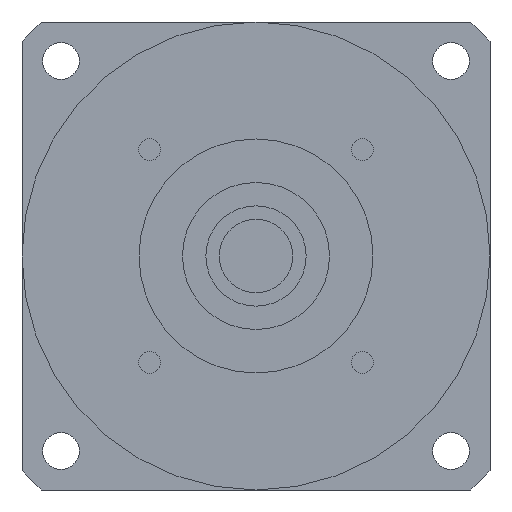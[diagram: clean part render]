
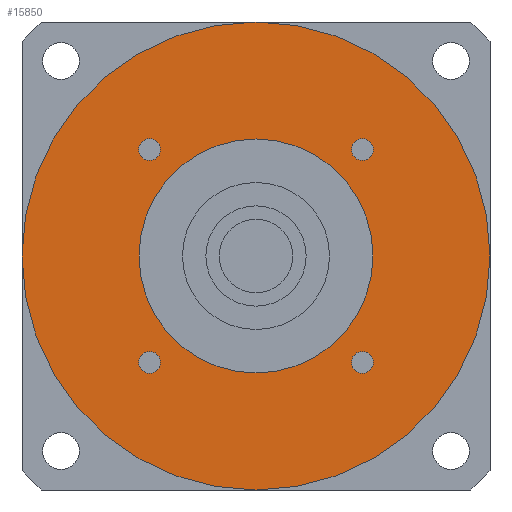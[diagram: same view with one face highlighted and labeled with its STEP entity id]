
A CAD part, left-side view. The second image highlights one B-rep face of the part: STEP entity #15850.
In plain terms, the highlighted planar face has unit normal (-1, 0, 0) as drawn and (0, 0, -1) by its records, which use the part's own axes.
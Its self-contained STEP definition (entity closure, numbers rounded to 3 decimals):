
#14690=CARTESIAN_POINT('',(-70.,0.,-54.7));
#14700=VERTEX_POINT('',#14690);
#14730=CARTESIAN_POINT('',(0.,0.,
-54.7));
#14740=DIRECTION('',(0.,0.,-1.));
#14750=DIRECTION('',(0.,-1.,0.));
#14760=AXIS2_PLACEMENT_3D('',#14730,#14740,#14750);
#14770=CIRCLE('',#14760,70.);
#14780=CARTESIAN_POINT('',(70.,0.,-54.7));
#14790=VERTEX_POINT('',#14780);
#14800=EDGE_CURVE('',#14700,#14790,#14770,.T.);
#14920=CARTESIAN_POINT('',(0.,0.,
-54.7));
#14930=DIRECTION('',(0.,0.,-1.));
#14940=DIRECTION('',(1.,0.,0.));
#14950=AXIS2_PLACEMENT_3D('',#14920,#14930,#14940);
#14960=PLANE('',#14950);
#14970=CARTESIAN_POINT('',(-31.82,31.82,-54.7));
#14980=DIRECTION('',(0.,0.,-1.));
#14990=DIRECTION('',(-1.,0.,0.));
#15000=AXIS2_PLACEMENT_3D('',#14970,#14980,#14990);
#15010=CIRCLE('',#15000,3.25);
#15020=CARTESIAN_POINT('',(-35.07,31.82,-54.7));
#15030=VERTEX_POINT('',#15020);
#15040=CARTESIAN_POINT('',(-28.57,31.82,-54.7));
#15050=VERTEX_POINT('',#15040);
#15060=EDGE_CURVE('',#15030,#15050,#15010,.T.);
#15070=ORIENTED_EDGE('',*,*,#15060,.F.);
#15080=EDGE_CURVE('',#15050,#15030,#15010,.T.);
#15090=ORIENTED_EDGE('',*,*,#15080,.F.);
#15100=EDGE_LOOP('',(#15090,#15070));
#15110=FACE_BOUND('',#15100,.T.);
#15120=CARTESIAN_POINT('',(-31.82,-31.82,-54.7));
#15130=DIRECTION('',(0.,0.,-1.));
#15140=DIRECTION('',(0.,-1.,0.));
#15150=AXIS2_PLACEMENT_3D('',#15120,#15130,#15140);
#15160=CIRCLE('',#15150,3.25);
#15170=CARTESIAN_POINT('',(-31.82,-35.07,-54.7));
#15180=VERTEX_POINT('',#15170);
#15190=CARTESIAN_POINT('',(-31.82,-28.57,-54.7));
#15200=VERTEX_POINT('',#15190);
#15210=EDGE_CURVE('',#15180,#15200,#15160,.T.);
#15220=ORIENTED_EDGE('',*,*,#15210,.F.);
#15230=EDGE_CURVE('',#15200,#15180,#15160,.T.);
#15240=ORIENTED_EDGE('',*,*,#15230,.F.);
#15250=EDGE_LOOP('',(#15240,#15220));
#15260=FACE_BOUND('',#15250,.T.);
#15270=CARTESIAN_POINT('',(0.,0.,
-54.7));
#15280=DIRECTION('',(0.,0.,1.));
#15290=DIRECTION('',(0.,1.,0.));
#15300=AXIS2_PLACEMENT_3D('',#15270,#15280,#15290);
#15310=CIRCLE('',#15300,35.);
#15320=CARTESIAN_POINT('',(-35.,0.,-54.7));
#15330=VERTEX_POINT('',#15320);
#15340=CARTESIAN_POINT('',(35.,0.,-54.7));
#15350=VERTEX_POINT('',#15340);
#15360=EDGE_CURVE('',#15330,#15350,#15310,.T.);
#15370=ORIENTED_EDGE('',*,*,#15360,.T.);
#15380=CARTESIAN_POINT('',(0.,35.,-54.7));
#15390=VERTEX_POINT('',#15380);
#15400=EDGE_CURVE('',#15390,#15330,#15310,.T.);
#15410=ORIENTED_EDGE('',*,*,#15400,.T.);
#15420=EDGE_CURVE('',#15350,#15390,#15310,.T.);
#15430=ORIENTED_EDGE('',*,*,#15420,.T.);
#15440=EDGE_LOOP('',(#15430,#15410,#15370));
#15450=FACE_BOUND('',#15440,.T.);
#15460=CARTESIAN_POINT('',(31.82,-31.82,-54.7));
#15470=DIRECTION('',(0.,0.,-1.));
#15480=DIRECTION('',(1.,0.,0.));
#15490=AXIS2_PLACEMENT_3D('',#15460,#15470,#15480);
#15500=CIRCLE('',#15490,3.25);
#15510=CARTESIAN_POINT('',(35.07,-31.82,-54.7));
#15520=VERTEX_POINT('',#15510);
#15530=CARTESIAN_POINT('',(28.57,-31.82,-54.7));
#15540=VERTEX_POINT('',#15530);
#15550=EDGE_CURVE('',#15520,#15540,#15500,.T.);
#15560=ORIENTED_EDGE('',*,*,#15550,.F.);
#15570=EDGE_CURVE('',#15540,#15520,#15500,.T.);
#15580=ORIENTED_EDGE('',*,*,#15570,.F.);
#15590=EDGE_LOOP('',(#15580,#15560));
#15600=FACE_BOUND('',#15590,.T.);
#15610=CARTESIAN_POINT('',(31.82,31.82,-54.7));
#15620=DIRECTION('',(0.,0.,-1.));
#15630=DIRECTION('',(0.,1.,0.));
#15640=AXIS2_PLACEMENT_3D('',#15610,#15620,#15630);
#15650=CIRCLE('',#15640,3.25);
#15660=CARTESIAN_POINT('',(31.82,35.07,-54.7));
#15670=VERTEX_POINT('',#15660);
#15680=CARTESIAN_POINT('',(31.82,28.57,-54.7));
#15690=VERTEX_POINT('',#15680);
#15700=EDGE_CURVE('',#15670,#15690,#15650,.T.);
#15710=ORIENTED_EDGE('',*,*,#15700,.F.);
#15720=EDGE_CURVE('',#15690,#15670,#15650,.T.);
#15730=ORIENTED_EDGE('',*,*,#15720,.F.);
#15740=EDGE_LOOP('',(#15730,#15710));
#15750=FACE_BOUND('',#15740,.T.);
#15760=ORIENTED_EDGE('',*,*,#14800,.T.);
#15770=CARTESIAN_POINT('',(0.,-70.,-54.7));
#15780=VERTEX_POINT('',#15770);
#15790=EDGE_CURVE('',#15780,#14700,#14770,.T.);
#15800=ORIENTED_EDGE('',*,*,#15790,.T.);
#15810=EDGE_CURVE('',#14790,#15780,#14770,.T.);
#15820=ORIENTED_EDGE('',*,*,#15810,.T.);
#15830=EDGE_LOOP('',(#15820,#15800,#15760));
#15840=FACE_OUTER_BOUND('',#15830,.T.);
#15850=ADVANCED_FACE('',(#15110,#15260,#15450,#15600,#15750,#15840),
#14960,.T.);
